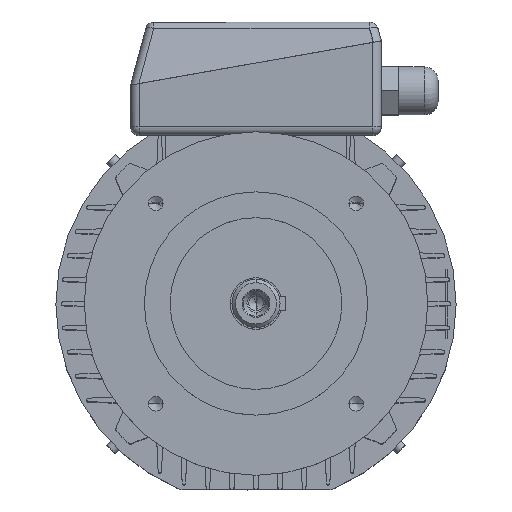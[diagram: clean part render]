
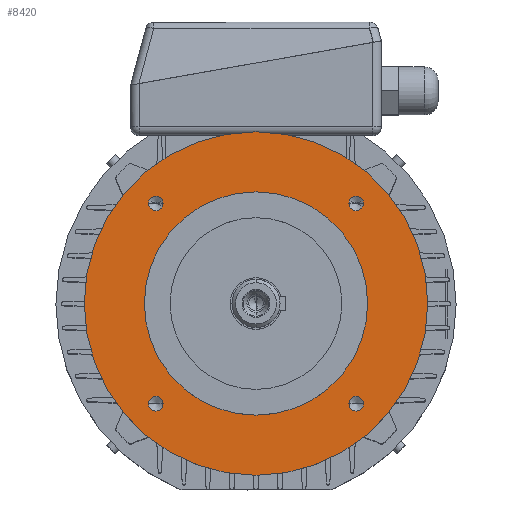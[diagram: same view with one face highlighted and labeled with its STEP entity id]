
A CAD part, top view. The second image highlights one B-rep face of the part: STEP entity #8420.
In plain terms, the highlighted planar face has unit normal (0, 0, 1).
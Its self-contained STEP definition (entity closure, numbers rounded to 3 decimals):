
#148 = EDGE_CURVE ( 'NONE', #1126, #14430, #10495, .T. ) ;
#679 = FACE_BOUND ( 'NONE', #10010, .T. ) ;
#680 = FACE_BOUND ( 'NONE', #8238, .T. ) ;
#681 = FACE_BOUND ( 'NONE', #6397, .T. ) ;
#682 = FACE_BOUND ( 'NONE', #4318, .T. ) ;
#683 = FACE_BOUND ( 'NONE', #2651, .T. ) ;
#684 = FACE_OUTER_BOUND ( 'NONE', #8964, .T. ) ;
#685 = PLANE ( 'NONE',  #686 ) ;
#686 = AXIS2_PLACEMENT_3D ( 'NONE', #687, #688, #696 ) ;
#687 = CARTESIAN_POINT ( 'NONE',  ( 0., 100., 51. ) ) ;
#688 = DIRECTION ( 'NONE',  ( 0., 0., -1. ) ) ;
#696 = DIRECTION ( 'NONE',  ( -1., 0., 0. ) ) ;
#884 = VERTEX_POINT ( 'NONE', #10790 ) ;
#896 = CIRCLE ( 'NONE', #897, 100. ) ;
#897 = AXIS2_PLACEMENT_3D ( 'NONE', #898, #899, #900 ) ;
#898 = CARTESIAN_POINT ( 'NONE',  ( 0., 0., 51. ) ) ;
#899 = DIRECTION ( 'NONE',  ( 0., 0., 1. ) ) ;
#900 = DIRECTION ( 'NONE',  ( 1., 0., 0. ) ) ;
#933 = CARTESIAN_POINT ( 'NONE',  ( -54.086, -58.336, 51. ) ) ;
#1018 = CIRCLE ( 'NONE', #1019, 4.25 ) ;
#1019 = AXIS2_PLACEMENT_3D ( 'NONE', #1020, #1021, #1022 ) ;
#1020 = CARTESIAN_POINT ( 'NONE',  ( -58.336, -58.336, 51. ) ) ;
#1021 = DIRECTION ( 'NONE',  ( 0., 0., 1. ) ) ;
#1022 = DIRECTION ( 'NONE',  ( 1., 0., 0. ) ) ;
#1126 = VERTEX_POINT ( 'NONE', #10925 ) ;
#1127 = VERTEX_POINT ( 'NONE', #10926 ) ;
#1376 = EDGE_CURVE ( 'NONE', #1127, #884, #11052, .T. ) ;
#1560 = CARTESIAN_POINT ( 'NONE',  ( 62.586, 58.336, 51. ) ) ;
#1878 = CARTESIAN_POINT ( 'NONE',  ( -54.086, 58.336, 51. ) ) ;
#1955 = CIRCLE ( 'NONE', #1956, 4.25 ) ;
#1956 = AXIS2_PLACEMENT_3D ( 'NONE', #1957, #1958, #1959 ) ;
#1957 = CARTESIAN_POINT ( 'NONE',  ( -58.336, 58.336, 51. ) ) ;
#1958 = DIRECTION ( 'NONE',  ( 0., 0., 1. ) ) ;
#1959 = DIRECTION ( 'NONE',  ( 1., 0., 0. ) ) ;
#2070 = CIRCLE ( 'NONE', #2071, 65. ) ;
#2071 = AXIS2_PLACEMENT_3D ( 'NONE', #2072, #2073, #2074 ) ;
#2072 = CARTESIAN_POINT ( 'NONE',  ( 0., 0., 51. ) ) ;
#2073 = DIRECTION ( 'NONE',  ( 0., 0., 1. ) ) ;
#2074 = DIRECTION ( 'NONE',  ( 1., 0., 0. ) ) ;
#2137 = CARTESIAN_POINT ( 'NONE',  ( 62.586, -58.336, 51. ) ) ;
#2242 = CIRCLE ( 'NONE', #2243, 4.25 ) ;
#2243 = AXIS2_PLACEMENT_3D ( 'NONE', #2244, #2245, #2246 ) ;
#2244 = CARTESIAN_POINT ( 'NONE',  ( 58.336, -58.336, 51. ) ) ;
#2245 = DIRECTION ( 'NONE',  ( 0., 0., 1. ) ) ;
#2246 = DIRECTION ( 'NONE',  ( 1., 0., 0. ) ) ;
#2651 = EDGE_LOOP ( 'NONE', ( #8664, #8510 ) ) ;
#2761 = ORIENTED_EDGE ( 'NONE', *, *, #8594, .F. ) ;
#2875 = CARTESIAN_POINT ( 'NONE',  ( 54.086, -58.336, 51. ) ) ;
#3585 = EDGE_CURVE ( 'NONE', #8553, #7419, #12270, .T. ) ;
#3821 = CIRCLE ( 'NONE', #3822, 4.25 ) ;
#3822 = AXIS2_PLACEMENT_3D ( 'NONE', #3823, #3824, #3825 ) ;
#3823 = CARTESIAN_POINT ( 'NONE',  ( -58.336, 58.336, 51. ) ) ;
#3824 = DIRECTION ( 'NONE',  ( 0., 0., 1. ) ) ;
#3825 = DIRECTION ( 'NONE',  ( 1., 0., 0. ) ) ;
#4318 = EDGE_LOOP ( 'NONE', ( #10040, #2761 ) ) ;
#4586 = ORIENTED_EDGE ( 'NONE', *, *, #9115, .F. ) ;
#5188 = EDGE_CURVE ( 'NONE', #9052, #9372, #13236, .T. ) ;
#5455 = CARTESIAN_POINT ( 'NONE',  ( 100., 0., 51. ) ) ;
#5557 = ORIENTED_EDGE ( 'NONE', *, *, #8536, .T. ) ;
#5602 = ORIENTED_EDGE ( 'NONE', *, *, #5188, .F. ) ;
#5774 = VERTEX_POINT ( 'NONE', #13511 ) ;
#6151 = ORIENTED_EDGE ( 'NONE', *, *, #12768, .T. ) ;
#6397 = EDGE_LOOP ( 'NONE', ( #5602, #4586 ) ) ;
#6668 = ORIENTED_EDGE ( 'NONE', *, *, #148, .F. ) ;
#7141 = CIRCLE ( 'NONE', #7142, 100. ) ;
#7142 = AXIS2_PLACEMENT_3D ( 'NONE', #7143, #7144, #7148 ) ;
#7143 = CARTESIAN_POINT ( 'NONE',  ( 0., 0., 51. ) ) ;
#7144 = DIRECTION ( 'NONE',  ( 0., 0., 1. ) ) ;
#7148 = DIRECTION ( 'NONE',  ( 1., 0., 0. ) ) ;
#7255 = EDGE_CURVE ( 'NONE', #14430, #1126, #14294, .T. ) ;
#7419 = VERTEX_POINT ( 'NONE', #14365 ) ;
#7673 = ORIENTED_EDGE ( 'NONE', *, *, #7255, .F. ) ;
#7706 = CARTESIAN_POINT ( 'NONE',  ( -100., 0., 51. ) ) ;
#8238 = EDGE_LOOP ( 'NONE', ( #7673, #6668 ) ) ;
#8298 = ORIENTED_EDGE ( 'NONE', *, *, #8976, .F. ) ;
#8420 = ADVANCED_FACE ( 'NONE', ( #679, #680, #681, #682, #683, #684 ), #685, .F. ) ;
#8510 = ORIENTED_EDGE ( 'NONE', *, *, #9027, .F. ) ;
#8536 = EDGE_CURVE ( 'NONE', #13751, #10199, #896, .T. ) ;
#8553 = VERTEX_POINT ( 'NONE', #933 ) ;
#8594 = EDGE_CURVE ( 'NONE', #7419, #8553, #1018, .T. ) ;
#8664 = ORIENTED_EDGE ( 'NONE', *, *, #1376, .F. ) ;
#8919 = VERTEX_POINT ( 'NONE', #1878 ) ;
#8964 = EDGE_LOOP ( 'NONE', ( #6151, #5557 ) ) ;
#8976 = EDGE_CURVE ( 'NONE', #5774, #8919, #1955, .T. ) ;
#9027 = EDGE_CURVE ( 'NONE', #884, #1127, #2070, .T. ) ;
#9052 = VERTEX_POINT ( 'NONE', #2137 ) ;
#9115 = EDGE_CURVE ( 'NONE', #9372, #9052, #2242, .T. ) ;
#9372 = VERTEX_POINT ( 'NONE', #2875 ) ;
#9789 = EDGE_CURVE ( 'NONE', #8919, #5774, #3821, .T. ) ;
#9888 = ORIENTED_EDGE ( 'NONE', *, *, #9789, .F. ) ;
#10010 = EDGE_LOOP ( 'NONE', ( #9888, #8298 ) ) ;
#10040 = ORIENTED_EDGE ( 'NONE', *, *, #3585, .F. ) ;
#10199 = VERTEX_POINT ( 'NONE', #5455 ) ;
#10495 = CIRCLE ( 'NONE', #10496, 4.25 ) ;
#10496 = AXIS2_PLACEMENT_3D ( 'NONE', #10497, #10498, #10499 ) ;
#10497 = CARTESIAN_POINT ( 'NONE',  ( 58.336, 58.336, 51. ) ) ;
#10498 = DIRECTION ( 'NONE',  ( 0., 0., 1. ) ) ;
#10499 = DIRECTION ( 'NONE',  ( 1., 0., 0. ) ) ;
#10790 = CARTESIAN_POINT ( 'NONE',  ( -65., 0., 51. ) ) ;
#10925 = CARTESIAN_POINT ( 'NONE',  ( 54.086, 58.336, 51. ) ) ;
#10926 = CARTESIAN_POINT ( 'NONE',  ( 65., 0., 51. ) ) ;
#11052 = CIRCLE ( 'NONE', #11053, 65. ) ;
#11053 = AXIS2_PLACEMENT_3D ( 'NONE', #11054, #11055, #11056 ) ;
#11054 = CARTESIAN_POINT ( 'NONE',  ( 0., 0., 51. ) ) ;
#11055 = DIRECTION ( 'NONE',  ( 0., 0., 1. ) ) ;
#11056 = DIRECTION ( 'NONE',  ( 1., 0., 0. ) ) ;
#12270 = CIRCLE ( 'NONE', #12273, 4.25 ) ;
#12273 = AXIS2_PLACEMENT_3D ( 'NONE', #12274, #12275, #12276 ) ;
#12274 = CARTESIAN_POINT ( 'NONE',  ( -58.336, -58.336, 51. ) ) ;
#12275 = DIRECTION ( 'NONE',  ( 0., 0., 1. ) ) ;
#12276 = DIRECTION ( 'NONE',  ( 1., 0., 0. ) ) ;
#12768 = EDGE_CURVE ( 'NONE', #10199, #13751, #7141, .T. ) ;
#13236 = CIRCLE ( 'NONE', #13237, 4.25 ) ;
#13237 = AXIS2_PLACEMENT_3D ( 'NONE', #13238, #13249, #13250 ) ;
#13238 = CARTESIAN_POINT ( 'NONE',  ( 58.336, -58.336, 51. ) ) ;
#13249 = DIRECTION ( 'NONE',  ( 0., 0., 1. ) ) ;
#13250 = DIRECTION ( 'NONE',  ( 1., 0., 0. ) ) ;
#13511 = CARTESIAN_POINT ( 'NONE',  ( -62.586, 58.336, 51. ) ) ;
#13751 = VERTEX_POINT ( 'NONE', #7706 ) ;
#14294 = CIRCLE ( 'NONE', #14295, 4.25 ) ;
#14295 = AXIS2_PLACEMENT_3D ( 'NONE', #14297, #14298, #14299 ) ;
#14297 = CARTESIAN_POINT ( 'NONE',  ( 58.336, 58.336, 51. ) ) ;
#14298 = DIRECTION ( 'NONE',  ( 0., 0., 1. ) ) ;
#14299 = DIRECTION ( 'NONE',  ( 1., 0., 0. ) ) ;
#14365 = CARTESIAN_POINT ( 'NONE',  ( -62.586, -58.336, 51. ) ) ;
#14430 = VERTEX_POINT ( 'NONE', #1560 ) ;
